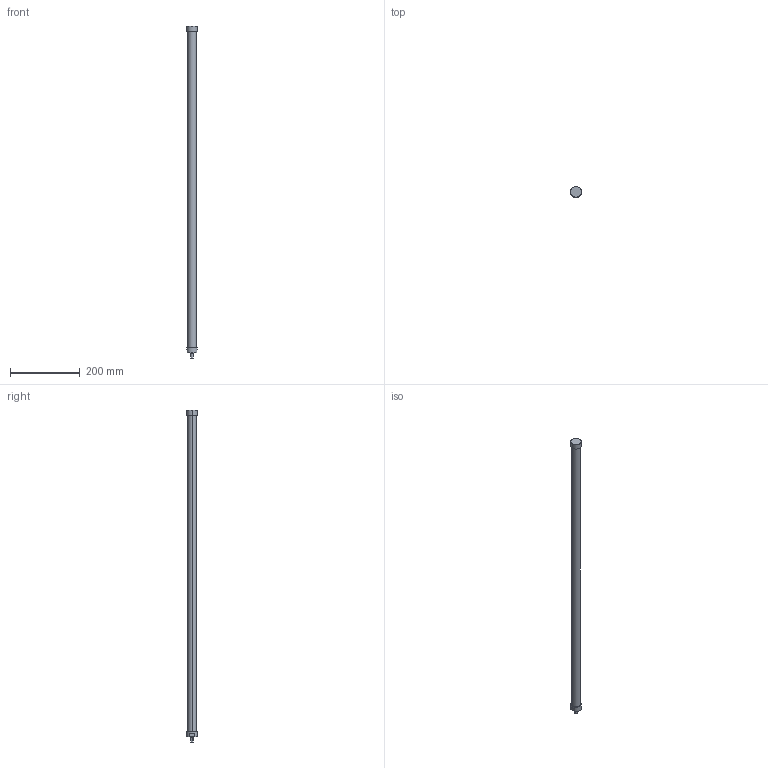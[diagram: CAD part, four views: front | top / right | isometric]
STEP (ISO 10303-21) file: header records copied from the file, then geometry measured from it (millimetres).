
FILE_DESCRIPTION(('STEP AP214'),'1');
FILE_NAME('ETT-R050M944.stp','2015-07-20T08:00:20',(' '),(' '),'Spatial InterOp 3D',' ',' ');
FILE_SCHEMA(('automotive_design'));
Length unit declared in the file: metre
Products named in the file (2): 1; 2
Bounding box: 31 x 31 x 949 mm (x, y, z)
Volume: 466574.5 mm3; surface area: 76593.2 mm2
Topology: 1 solids, 4 shells, 20 faces, 48 edges, 36 vertices
Faces by surface type: cylinder 10, plane 10
Entity records: 812 total; most frequent: DIRECTION 120, CARTESIAN_POINT 106, ORIENTED_EDGE 84, AXIS2_PLACEMENT_3D 50, EDGE_CURVE 48, VERTEX_POINT 36, CIRCLE 28, EDGE_LOOP 24
